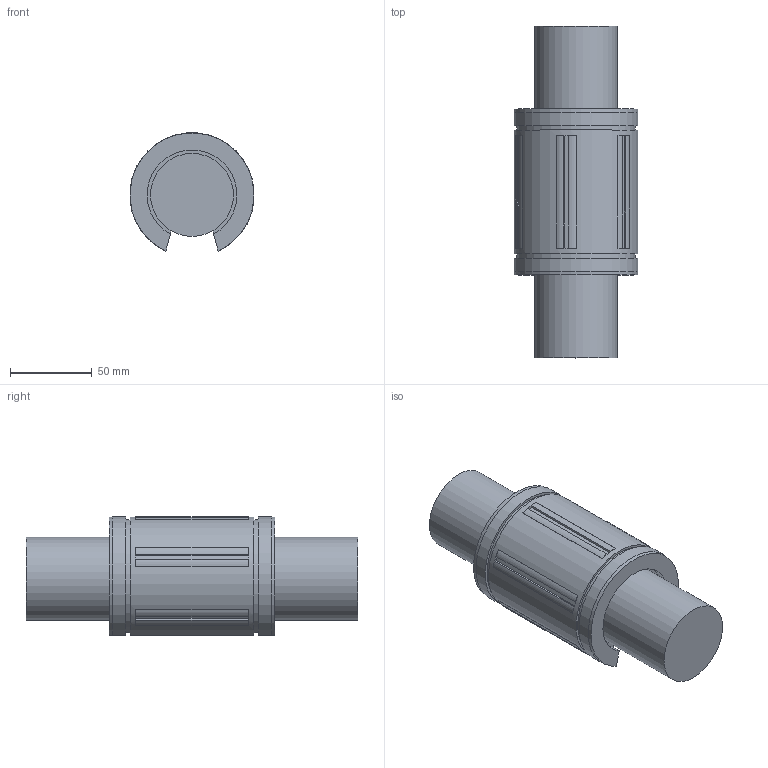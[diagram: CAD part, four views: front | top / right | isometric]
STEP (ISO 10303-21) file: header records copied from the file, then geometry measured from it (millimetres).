
FILE_DESCRIPTION((''),'2;1');
FILE_NAME('D:\STEP\SUPER\LMBS OP\LMBS32_OP.stp','2013-02-14T08:07:34',('user2'),(''),'Autodesk Inventor 2012','Autodesk Inventor 2012','');
FILE_SCHEMA(('AUTOMOTIVE_DESIGN { 1 0 10303 214 1 1 1 1 }'));
Length unit declared in the file: millimetre
Products named in the file (1): LMBS32_OP
Bounding box: 75.91 x 203.2 x 72.69 mm (x, y, z)
Volume: 622773.7 mm3; surface area: 55737.2 mm2
Topology: 1 solids, 1 shells, 107 faces, 259 edges, 159 vertices
Faces by surface type: plane 87, cylinder 18, cone 2
Full cylindrical faces by diameter (mm): 50.8 x1
Entity records: 3146 total; most frequent: DIRECTION 582, CARTESIAN_POINT 522, ORIENTED_EDGE 512, EDGE_CURVE 256, AXIS2_PLACEMENT_3D 218, VERTEX_POINT 158, VECTOR 146, LINE 146
